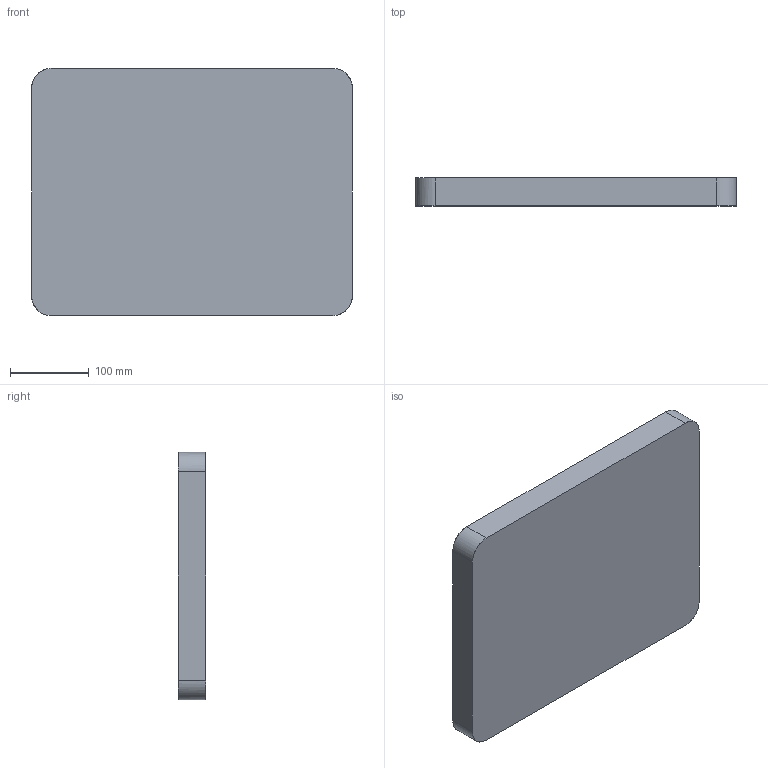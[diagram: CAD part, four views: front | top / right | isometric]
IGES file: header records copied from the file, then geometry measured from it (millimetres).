
Start section: SolidWorks IGES file using analytic representation for surfaces
Global section: file name: C:\Arnold\oem 1090\1090-CASE-BOT.IGS; native system: SolidWorks 2007; preprocessor: SolidWorks 2007; author: akameda; date: 080514.115511; units: inch
Bounding box: 406.09 x 35.18 x 313.38 mm (x, y, z)
Surface area: 336316.9 mm2 (no closed solid volume)
Topology: 0 solids, 0 shells, 287 faces, 2482 edges, 2471 vertices
Faces by surface type: bspline 183, revolution 104
